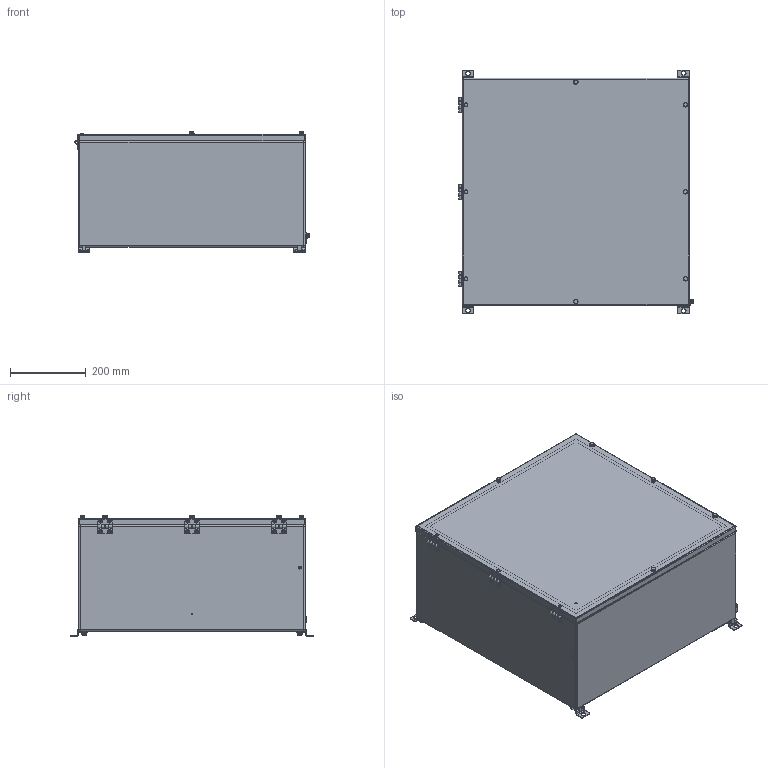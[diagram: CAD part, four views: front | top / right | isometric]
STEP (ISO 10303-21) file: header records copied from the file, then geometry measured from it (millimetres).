
FILE_DESCRIPTION (( 'STEP AP203' ), '1' );
FILE_NAME ('ﾊﾑﾐﾂ-ﾌ606030.STEP', '2022-01-18T09:42:03', ( '' ), ( '' ), 'SwSTEP 2.0', 'SolidWorks 2018', '' );
FILE_SCHEMA (( 'CONFIG_CONTROL_DESIGN' ));
Length unit declared in the file: millimetre
Products named in the file (1): ﾊﾑﾐﾂ-ﾌ606030
Bounding box: 619.19 x 644 x 319.8 mm (x, y, z)
Volume: 4043879.2 mm3; surface area: 3665412.6 mm2
Topology: 3 solids, 62 shells, 2324 faces, 5566 edges, 3526 vertices
Faces by surface type: plane 1399, cylinder 561, cone 234, torus 73, sphere 53, bspline 4
Full cylindrical faces by diameter (mm): 0.75 x3, 0.8 x8, 1 x12, 3.2 x12, 4 x12, 4.6 x5, 4.891 x8, 5 x25, 5.134 x8, 5.2 x5, 5.5 x3, 5.9 x18, 6 x27, 6.1 x6, 6.4 x13, 6.5 x9, 6.9 x4, 7 x21, 7.3 x8, 7.5 x20, 8 x13, 8.9 x18, 9 x5, 10 x5, 11.2 x8, 12 x21, 12.7 x16, 13 x10
Entity records: 64453 total; most frequent: CARTESIAN_POINT 13304, DIRECTION 10820, ORIENTED_EDGE 9554, EDGE_CURVE 4777, AXIS2_PLACEMENT_3D 4031, VERTEX_POINT 3277, EDGE_LOOP 3158, VECTOR 2758
